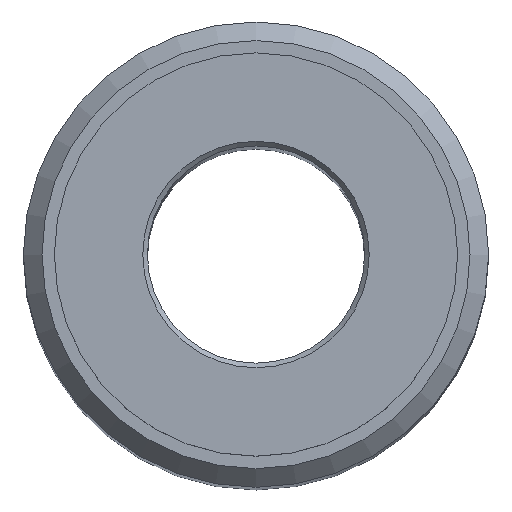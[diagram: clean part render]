
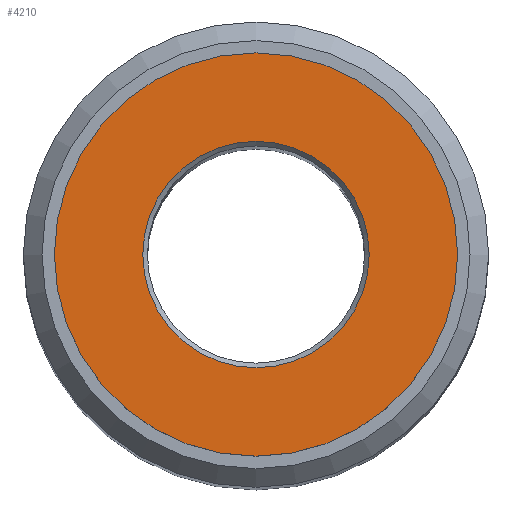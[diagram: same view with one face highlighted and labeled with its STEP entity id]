
A CAD part, top view. The second image highlights one B-rep face of the part: STEP entity #4210.
In plain terms, the highlighted planar face has unit normal (0, 0, 1).
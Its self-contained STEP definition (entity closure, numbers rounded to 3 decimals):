
#50=CIRCLE('',#4361,7.3);
#51=CIRCLE('',#4363,13.);
#80=FACE_BOUND('',#850,.T.);
#597=FACE_OUTER_BOUND('',#849,.T.);
#849=EDGE_LOOP('',(#3817));
#850=EDGE_LOOP('',(#3818));
#2033=VERTEX_POINT('',#7734);
#2034=VERTEX_POINT('',#7737);
#2638=EDGE_CURVE('',#2033,#2033,#50,.T.);
#2639=EDGE_CURVE('',#2034,#2034,#51,.T.);
#3817=ORIENTED_EDGE('',*,*,#2639,.F.);
#3818=ORIENTED_EDGE('',*,*,#2638,.F.);
#3971=PLANE('',#4362);
#4210=ADVANCED_FACE('',(#597,#80),#3971,.T.);
#4361=AXIS2_PLACEMENT_3D('',#7735,#5044,#5045);
#4362=AXIS2_PLACEMENT_3D('',#7736,#5046,#5047);
#4363=AXIS2_PLACEMENT_3D('',#7738,#5048,#5049);
#5044=DIRECTION('center_axis',(0.,0.,1.));
#5045=DIRECTION('ref_axis',(-1.,0.,0.));
#5046=DIRECTION('center_axis',(0.,0.,1.));
#5047=DIRECTION('ref_axis',(1.,0.,0.));
#5048=DIRECTION('center_axis',(0.,0.,-1.));
#5049=DIRECTION('ref_axis',(1.,0.,0.));
#7734=CARTESIAN_POINT('',(-6.052,5.249,0.));
#7735=CARTESIAN_POINT('Origin',(-13.352,5.249,0.));
#7736=CARTESIAN_POINT('Origin',(-0.352,5.249,0.));
#7737=CARTESIAN_POINT('',(-0.352,5.249,0.));
#7738=CARTESIAN_POINT('Origin',(-13.352,5.249,0.));
